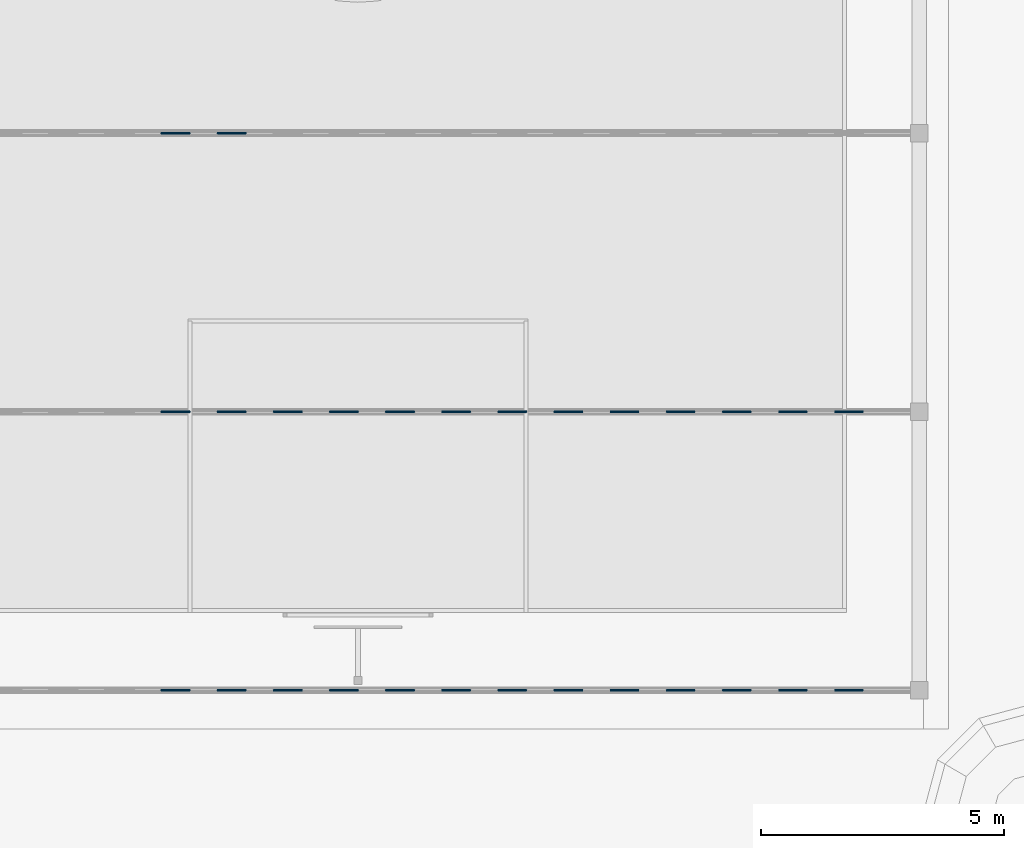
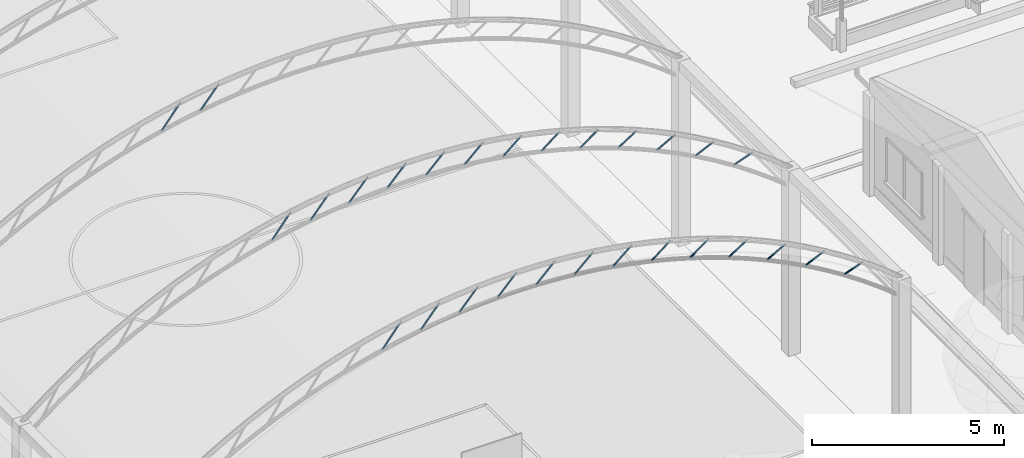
# One storey, part 35 of 177: 28 beams.
"""IFC4 building model written with IfcOpenShell, lengths in metres."""

from ifc_helpers import new_model, si_unit, origin, origin_with_axes, place, context, subcontext, project, spatial, triangles, element, save


model = new_model("IFC4")

# Units and contexts
model_context = context("Model", 3, precision=1e-05, world=origin_with_axes())
body_context = subcontext(model_context, "Body", "Model", "MODEL_VIEW")
ifc_project = project(units=[si_unit("LENGTHUNIT", "METRE"), si_unit("AREAUNIT", "SQUARE_METRE"), si_unit("VOLUMEUNIT", "CUBIC_METRE"), si_unit("PLANEANGLEUNIT", "RADIAN")], contexts=[model_context])

# Site, building, storey
site_placement = place(None, origin_with_axes())
site = spatial("IfcSite", under=ifc_project, at=site_placement, Name="Predio Los Mangos - Morales, San Martín", CompositionType="ELEMENT")
building_placement = place(site_placement, origin())
building = spatial("IfcBuilding", under=site, at=building_placement, Name="Hogar de Refugio Temporal", CompositionType="ELEMENT")
storey_placement = place(building_placement, origin())
storey = spatial("IfcBuildingStorey", under=building, at=storey_placement, Name="NIVEL 1 (NPT +0.00)", CompositionType="ELEMENT", Elevation=0.0)

# Beams
beam_1_placement = place(storey_placement, origin())
element("IfcBeam", 1, at=beam_1_placement, inside=storey, Name="diag", ObjectType="Viga", PredefinedType="BEAM", context=body_context, shape_type="Tessellation", body=[
    triangles([(10.9977, 92.6217, 9.0975), (10.9906, 92.6125, 9.1032), (10.988, 92.6, 9.1053), (10.9906, 92.5875, 9.1032), (10.9977, 92.5783, 9.0975), (11.0075, 92.575, 9.0897), (11.0173, 92.5783, 9.0819), (11.0244, 92.5875, 9.0762), (11.027, 92.6, 9.0741), (11.0244, 92.6125, 9.0762), (11.0173, 92.6217, 9.0819), (11.0075, 92.625, 9.0897), (11.5752, 92.6217, 9.8208), (11.5681, 92.6125, 9.8265), (11.5655, 92.6, 9.8286), (11.5681, 92.5875, 9.8265), (11.5752, 92.5783, 9.8208), (11.585, 92.575, 9.813), (11.5948, 92.5783, 9.8052), (11.6019, 92.5875, 9.7995), (11.6045, 92.6, 9.7974), (11.6019, 92.6125, 9.7995), (11.5948, 92.6217, 9.8052), (11.585, 92.625, 9.813)], [[1, 13, 24], [1, 24, 12], [2, 14, 13], [2, 13, 1], [3, 15, 14], [3, 14, 2], [4, 16, 15], [4, 15, 3], [5, 17, 16], [5, 16, 4], [6, 18, 17], [6, 17, 5], [7, 19, 18], [7, 18, 6], [8, 20, 19], [8, 19, 7], [9, 21, 20], [9, 20, 8], [10, 22, 21], [10, 21, 9], [11, 23, 22], [11, 22, 10], [12, 24, 23], [12, 23, 11]]),
])
beam_2_placement = place(storey_placement, origin())
element("IfcBeam", 2, at=beam_2_placement, inside=storey, Name="diag", ObjectType="Viga", PredefinedType="BEAM", context=body_context, shape_type="Tessellation", body=[
    triangles([(12.1529, 92.6217, 9.3247), (12.146, 92.6125, 9.3306), (12.1434, 92.6, 9.3328), (12.146, 92.5875, 9.3306), (12.1529, 92.5783, 9.3247), (12.1625, 92.575, 9.3166), (12.1721, 92.5783, 9.3086), (12.179, 92.5875, 9.3027), (12.1816, 92.6, 9.3005), (12.179, 92.6125, 9.3027), (12.1721, 92.6217, 9.3086), (12.1625, 92.625, 9.3166), (12.7304, 92.6217, 10.0091), (12.7235, 92.6125, 10.015), (12.7209, 92.6, 10.0171), (12.7235, 92.5875, 10.015), (12.7304, 92.5783, 10.0091), (12.74, 92.575, 10.001), (12.7496, 92.5783, 9.9929), (12.7565, 92.5875, 9.987), (12.7591, 92.6, 9.9849), (12.7565, 92.6125, 9.987), (12.7496, 92.6217, 9.9929), (12.74, 92.625, 10.001)], [[1, 13, 24], [1, 24, 12], [2, 14, 13], [2, 13, 1], [3, 15, 14], [3, 14, 2], [4, 16, 15], [4, 15, 3], [5, 17, 16], [5, 16, 4], [6, 18, 17], [6, 17, 5], [7, 19, 18], [7, 18, 6], [8, 20, 19], [8, 19, 7], [9, 21, 20], [9, 20, 8], [10, 22, 21], [10, 21, 9], [11, 23, 22], [11, 22, 10], [12, 24, 23], [12, 23, 11]]),
])
beam_3_placement = place(storey_placement, origin())
element("IfcBeam", 3, at=beam_3_placement, inside=storey, Name="diag", ObjectType="Viga", PredefinedType="BEAM", context=body_context, shape_type="Tessellation", body=[
    triangles([(13.3082, 92.6217, 9.4747), (13.3014, 92.6125, 9.4808), (13.2989, 92.6, 9.483), (13.3014, 92.5875, 9.4808), (13.3082, 92.5783, 9.4747), (13.3175, 92.575, 9.4663), (13.3268, 92.5783, 9.458), (13.3336, 92.5875, 9.4519), (13.3361, 92.6, 9.4497), (13.3336, 92.6125, 9.4519), (13.3268, 92.6217, 9.458), (13.3175, 92.625, 9.4663), (13.8857, 92.6217, 10.1212), (13.8789, 92.6125, 10.1273), (13.8764, 92.6, 10.1295), (13.8789, 92.5875, 10.1273), (13.8857, 92.5783, 10.1212), (13.895, 92.575, 10.1129), (13.9043, 92.5783, 10.1045), (13.9111, 92.5875, 10.0984), (13.9136, 92.6, 10.0962), (13.9111, 92.6125, 10.0984), (13.9043, 92.6217, 10.1045), (13.895, 92.625, 10.1129)], [[1, 13, 24], [1, 24, 12], [2, 14, 13], [2, 13, 1], [3, 15, 14], [3, 14, 2], [4, 16, 15], [4, 15, 3], [5, 17, 16], [5, 16, 4], [6, 18, 17], [6, 17, 5], [7, 19, 18], [7, 18, 6], [8, 20, 19], [8, 19, 7], [9, 21, 20], [9, 20, 8], [10, 22, 21], [10, 21, 9], [11, 23, 22], [11, 22, 10], [12, 24, 23], [12, 23, 11]]),
])
beam_4_placement = place(storey_placement, origin())
element("IfcBeam", 4, at=beam_4_placement, inside=storey, Name="diag", ObjectType="Viga", PredefinedType="BEAM", context=body_context, shape_type="Tessellation", body=[
    triangles([(14.4634, 92.6217, 9.5493), (14.4568, 92.6125, 9.5556), (14.4544, 92.6, 9.5579), (14.4568, 92.5875, 9.5556), (14.4634, 92.5783, 9.5493), (14.4725, 92.575, 9.5407), (14.4816, 92.5783, 9.5321), (14.4882, 92.5875, 9.5258), (14.4906, 92.6, 9.5235), (14.4882, 92.6125, 9.5258), (14.4816, 92.6217, 9.5321), (14.4725, 92.625, 9.5407), (15.0409, 92.6217, 10.1586), (15.0343, 92.6125, 10.1649), (15.0319, 92.6, 10.1672), (15.0343, 92.5875, 10.1649), (15.0409, 92.5783, 10.1586), (15.05, 92.575, 10.15), (15.0591, 92.5783, 10.1414), (15.0657, 92.5875, 10.1351), (15.0681, 92.6, 10.1328), (15.0657, 92.6125, 10.1351), (15.0591, 92.6217, 10.1414), (15.05, 92.625, 10.15)], [[1, 13, 24], [1, 24, 12], [2, 14, 13], [2, 13, 1], [3, 15, 14], [3, 14, 2], [4, 16, 15], [4, 15, 3], [5, 17, 16], [5, 16, 4], [6, 18, 17], [6, 17, 5], [7, 19, 18], [7, 18, 6], [8, 20, 19], [8, 19, 7], [9, 21, 20], [9, 20, 8], [10, 22, 21], [10, 21, 9], [11, 23, 22], [11, 22, 10], [12, 24, 23], [12, 23, 11]]),
])
beam_5_placement = place(storey_placement, origin())
element("IfcBeam", 5, at=beam_5_placement, inside=storey, Name="diag", ObjectType="Viga", PredefinedType="BEAM", context=body_context, shape_type="Tessellation", body=[
    triangles([(15.6187, 92.6217, 9.5496), (15.6123, 92.6125, 9.5561), (15.6099, 92.6, 9.5585), (15.6123, 92.5875, 9.5561), (15.6187, 92.5783, 9.5496), (15.6275, 92.575, 9.5407), (15.6363, 92.5783, 9.5318), (15.6427, 92.5875, 9.5253), (15.6451, 92.6, 9.523), (15.6427, 92.6125, 9.5253), (15.6363, 92.6217, 9.5318), (15.6275, 92.625, 9.5407), (16.1962, 92.6217, 10.1217), (16.1898, 92.6125, 10.1282), (16.1874, 92.6, 10.1306), (16.1898, 92.5875, 10.1282), (16.1962, 92.5783, 10.1217), (16.205, 92.575, 10.1129), (16.2138, 92.5783, 10.104), (16.2202, 92.5875, 10.0975), (16.2226, 92.6, 10.0951), (16.2202, 92.6125, 10.0975), (16.2138, 92.6217, 10.104), (16.205, 92.625, 10.1129)], [[1, 13, 24], [1, 24, 12], [2, 14, 13], [2, 13, 1], [3, 15, 14], [3, 14, 2], [4, 16, 15], [4, 15, 3], [5, 17, 16], [5, 16, 4], [6, 18, 17], [6, 17, 5], [7, 19, 18], [7, 18, 6], [8, 20, 19], [8, 19, 7], [9, 21, 20], [9, 20, 8], [10, 22, 21], [10, 21, 9], [11, 23, 22], [11, 22, 10], [12, 24, 23], [12, 23, 11]]),
])
beam_6_placement = place(storey_placement, origin())
element("IfcBeam", 6, at=beam_6_placement, inside=storey, Name="diag", ObjectType="Viga", PredefinedType="BEAM", context=body_context, shape_type="Tessellation", body=[
    triangles([(16.774, 92.6217, 9.4755), (16.7678, 92.6125, 9.4822), (16.7655, 92.6, 9.4847), (16.7678, 92.5875, 9.4822), (16.774, 92.5783, 9.4755), (16.7825, 92.575, 9.4663), (16.791, 92.5783, 9.4572), (16.7972, 92.5875, 9.4505), (16.7995, 92.6, 9.448), (16.7972, 92.6125, 9.4505), (16.791, 92.6217, 9.4572), (16.7825, 92.625, 9.4663), (17.3515, 92.6217, 10.0102), (17.3453, 92.6125, 10.0169), (17.343, 92.6, 10.0193), (17.3453, 92.5875, 10.0169), (17.3515, 92.5783, 10.0102), (17.36, 92.575, 10.001), (17.3685, 92.5783, 9.9918), (17.3747, 92.5875, 9.9851), (17.377, 92.6, 9.9827), (17.3747, 92.6125, 9.9851), (17.3685, 92.6217, 9.9918), (17.36, 92.625, 10.001)], [[1, 13, 24], [1, 24, 12], [2, 14, 13], [2, 13, 1], [3, 15, 14], [3, 14, 2], [4, 16, 15], [4, 15, 3], [5, 17, 16], [5, 16, 4], [6, 18, 17], [6, 17, 5], [7, 19, 18], [7, 18, 6], [8, 20, 19], [8, 19, 7], [9, 21, 20], [9, 20, 8], [10, 22, 21], [10, 21, 9], [11, 23, 22], [11, 22, 10], [12, 24, 23], [12, 23, 11]]),
])
beam_7_placement = place(storey_placement, origin())
element("IfcBeam", 7, at=beam_7_placement, inside=storey, Name="diag", ObjectType="Viga", PredefinedType="BEAM", context=body_context, shape_type="Tessellation", body=[
    triangles([(17.9294, 92.6217, 9.3261), (17.9234, 92.6125, 9.3331), (17.9212, 92.6, 9.3356), (17.9234, 92.5875, 9.3331), (17.9294, 92.5783, 9.3261), (17.9375, 92.575, 9.3166), (17.9456, 92.5783, 9.3072), (17.9516, 92.5875, 9.3002), (17.9538, 92.6, 9.2977), (17.9516, 92.6125, 9.3002), (17.9456, 92.6217, 9.3072), (17.9375, 92.625, 9.3166), (18.5069, 92.6217, 9.8225), (18.5009, 92.6125, 9.8294), (18.4987, 92.6, 9.8319), (18.5009, 92.5875, 9.8294), (18.5069, 92.5783, 9.8225), (18.515, 92.575, 9.813), (18.5231, 92.5783, 9.8035), (18.5291, 92.5875, 9.7966), (18.5313, 92.6, 9.794), (18.5291, 92.6125, 9.7966), (18.5231, 92.6217, 9.8035), (18.515, 92.625, 9.813)], [[1, 13, 24], [1, 24, 12], [2, 14, 13], [2, 13, 1], [3, 15, 14], [3, 14, 2], [4, 16, 15], [4, 15, 3], [5, 17, 16], [5, 16, 4], [6, 18, 17], [6, 17, 5], [7, 19, 18], [7, 18, 6], [8, 20, 19], [8, 19, 7], [9, 21, 20], [9, 20, 8], [10, 22, 21], [10, 21, 9], [11, 23, 22], [11, 22, 10], [12, 24, 23], [12, 23, 11]]),
])
beam_8_placement = place(storey_placement, origin())
element("IfcBeam", 8, at=beam_8_placement, inside=storey, Name="diag", ObjectType="Viga", PredefinedType="BEAM", context=body_context, shape_type="Tessellation", body=[
    triangles([(19.0847, 92.6217, 9.0995), (19.0791, 92.6125, 9.1067), (19.077, 92.6, 9.1093), (19.0791, 92.5875, 9.1067), (19.0847, 92.5783, 9.0995), (19.0925, 92.575, 9.0897), (19.1003, 92.5783, 9.0799), (19.1059, 92.5875, 9.0727), (19.108, 92.6, 9.0701), (19.1059, 92.6125, 9.0727), (19.1003, 92.6217, 9.0799), (19.0925, 92.625, 9.0897), (19.6622, 92.6217, 9.5562), (19.6566, 92.6125, 9.5633), (19.6545, 92.6, 9.566), (19.6566, 92.5875, 9.5633), (19.6622, 92.5783, 9.5562), (19.67, 92.575, 9.5463), (19.6778, 92.5783, 9.5365), (19.6834, 92.5875, 9.5294), (19.6855, 92.6, 9.5267), (19.6834, 92.6125, 9.5294), (19.6778, 92.6217, 9.5365), (19.67, 92.625, 9.5463)], [[1, 13, 24], [1, 24, 12], [2, 14, 13], [2, 13, 1], [3, 15, 14], [3, 14, 2], [4, 16, 15], [4, 15, 3], [5, 17, 16], [5, 16, 4], [6, 18, 17], [6, 17, 5], [7, 19, 18], [7, 18, 6], [8, 20, 19], [8, 19, 7], [9, 21, 20], [9, 20, 8], [10, 22, 21], [10, 21, 9], [11, 23, 22], [11, 22, 10], [12, 24, 23], [12, 23, 11]]),
])
beam_9_placement = place(storey_placement, origin())
element("IfcBeam", 9, at=beam_9_placement, inside=storey, Name="diag", ObjectType="Viga", PredefinedType="BEAM", context=body_context, shape_type="Tessellation", body=[
    triangles([(20.2402, 92.6217, 8.7926), (20.2349, 92.6125, 8.8), (20.2329, 92.6, 8.8027), (20.2349, 92.5875, 8.8), (20.2402, 92.5783, 8.7926), (20.2475, 92.575, 8.7824), (20.2548, 92.5783, 8.7723), (20.2601, 92.5875, 8.7649), (20.2621, 92.6, 8.7621), (20.2601, 92.6125, 8.7649), (20.2548, 92.6217, 8.7723), (20.2475, 92.625, 8.7824), (20.8177, 92.6217, 9.2075), (20.8124, 92.6125, 9.215), (20.8104, 92.6, 9.2177), (20.8124, 92.5875, 9.215), (20.8177, 92.5783, 9.2075), (20.825, 92.575, 9.1974), (20.8323, 92.5783, 9.1872), (20.8376, 92.5875, 9.1798), (20.8396, 92.6, 9.1771), (20.8376, 92.6125, 9.1798), (20.8323, 92.6217, 9.1872), (20.825, 92.625, 9.1974)], [[1, 13, 24], [1, 24, 12], [2, 14, 13], [2, 13, 1], [3, 15, 14], [3, 14, 2], [4, 16, 15], [4, 15, 3], [5, 17, 16], [5, 16, 4], [6, 18, 17], [6, 17, 5], [7, 19, 18], [7, 18, 6], [8, 20, 19], [8, 19, 7], [9, 21, 20], [9, 20, 8], [10, 22, 21], [10, 21, 9], [11, 23, 22], [11, 22, 10], [12, 24, 23], [12, 23, 11]]),
])
beam_10_placement = place(storey_placement, origin())
element("IfcBeam", 10, at=beam_10_placement, inside=storey, Name="diag", ObjectType="Viga", PredefinedType="BEAM", context=body_context, shape_type="Tessellation", body=[
    triangles([(21.3958, 92.6217, 8.401), (21.3908, 92.6125, 8.4087), (21.389, 92.6, 8.4115), (21.3908, 92.5875, 8.4087), (21.3958, 92.5783, 8.401), (21.4025, 92.575, 8.3905), (21.4092, 92.5783, 8.38), (21.4142, 92.5875, 8.3723), (21.416, 92.6, 8.3695), (21.4142, 92.6125, 8.3723), (21.4092, 92.6217, 8.38), (21.4025, 92.625, 8.3905), (21.9733, 92.6217, 8.7715), (21.9683, 92.6125, 8.7792), (21.9665, 92.6, 8.782), (21.9683, 92.5875, 8.7792), (21.9733, 92.5783, 8.7715), (21.98, 92.575, 8.7609), (21.9867, 92.5783, 8.7504), (21.9917, 92.5875, 8.7427), (21.9935, 92.6, 8.7399), (21.9917, 92.6125, 8.7427), (21.9867, 92.6217, 8.7504), (21.98, 92.625, 8.7609)], [[1, 13, 24], [1, 24, 12], [2, 14, 13], [2, 13, 1], [3, 15, 14], [3, 14, 2], [4, 16, 15], [4, 15, 3], [5, 17, 16], [5, 16, 4], [6, 18, 17], [6, 17, 5], [7, 19, 18], [7, 18, 6], [8, 20, 19], [8, 19, 7], [9, 21, 20], [9, 20, 8], [10, 22, 21], [10, 21, 9], [11, 23, 22], [11, 22, 10], [12, 24, 23], [12, 23, 11]]),
])
beam_11_placement = place(storey_placement, origin())
element("IfcBeam", 11, at=beam_11_placement, inside=storey, Name="diag", ObjectType="Viga", PredefinedType="BEAM", context=body_context, shape_type="Tessellation", body=[
    triangles([(22.5514, 92.6217, 7.9187), (22.547, 92.6125, 7.9267), (22.5453, 92.6, 7.9296), (22.547, 92.5875, 7.9267), (22.5514, 92.5783, 7.9187), (22.5575, 92.575, 7.9077), (22.5636, 92.5783, 7.8968), (22.568, 92.5875, 7.8888), (22.5697, 92.6, 7.8859), (22.568, 92.6125, 7.8888), (22.5636, 92.6217, 7.8968), (22.5575, 92.625, 7.9077), (23.1289, 92.6217, 8.2407), (23.1245, 92.6125, 8.2487), (23.1228, 92.6, 8.2517), (23.1245, 92.5875, 8.2487), (23.1289, 92.5783, 8.2407), (23.135, 92.575, 8.2298), (23.1411, 92.5783, 8.2189), (23.1455, 92.5875, 8.2109), (23.1472, 92.6, 8.208), (23.1455, 92.6125, 8.2109), (23.1411, 92.6217, 8.2189), (23.135, 92.625, 8.2298)], [[1, 13, 24], [1, 24, 12], [2, 14, 13], [2, 13, 1], [3, 15, 14], [3, 14, 2], [4, 16, 15], [4, 15, 3], [5, 17, 16], [5, 16, 4], [6, 18, 17], [6, 17, 5], [7, 19, 18], [7, 18, 6], [8, 20, 19], [8, 19, 7], [9, 21, 20], [9, 20, 8], [10, 22, 21], [10, 21, 9], [11, 23, 22], [11, 22, 10], [12, 24, 23], [12, 23, 11]]),
])
beam_12_placement = place(storey_placement, origin())
element("IfcBeam", 12, at=beam_12_placement, inside=storey, Name="diag", ObjectType="Viga", PredefinedType="BEAM", context=body_context, shape_type="Tessellation", body=[
    triangles([(23.7072, 92.6217, 7.3372), (23.7034, 92.6125, 7.3455), (23.702, 92.6, 7.3485), (23.7034, 92.5875, 7.3455), (23.7072, 92.5783, 7.3372), (23.7125, 92.575, 7.3259), (23.7178, 92.5783, 7.3145), (23.7216, 92.5875, 7.3062), (23.723, 92.6, 7.3032), (23.7216, 92.6125, 7.3062), (23.7178, 92.6217, 7.3145), (23.7125, 92.625, 7.3259), (24.2847, 92.6217, 7.6056), (24.2809, 92.6125, 7.6139), (24.2795, 92.6, 7.617), (24.2809, 92.5875, 7.6139), (24.2847, 92.5783, 7.6056), (24.29, 92.575, 7.5943), (24.2953, 92.5783, 7.583), (24.2991, 92.5875, 7.5747), (24.3005, 92.6, 7.5716), (24.2991, 92.6125, 7.5747), (24.2953, 92.6217, 7.583), (24.29, 92.625, 7.5943)], [[1, 13, 24], [1, 24, 12], [2, 14, 13], [2, 13, 1], [3, 15, 14], [3, 14, 2], [4, 16, 15], [4, 15, 3], [5, 17, 16], [5, 16, 4], [6, 18, 17], [6, 17, 5], [7, 19, 18], [7, 18, 6], [8, 20, 19], [8, 19, 7], [9, 21, 20], [9, 20, 8], [10, 22, 21], [10, 21, 9], [11, 23, 22], [11, 22, 10], [12, 24, 23], [12, 23, 11]]),
])
beam_13_placement = place(storey_placement, origin())
element("IfcBeam", 13, at=beam_13_placement, inside=storey, Name="diag", ObjectType="Viga", PredefinedType="BEAM", context=body_context, shape_type="Tessellation", body=[
    triangles([(24.8633, 92.6217, 6.6451), (24.8602, 92.6125, 6.6537), (24.859, 92.6, 6.6569), (24.8602, 92.5875, 6.6537), (24.8633, 92.5783, 6.6451), (24.8675, 92.575, 6.6333), (24.8717, 92.5783, 6.6216), (24.8748, 92.5875, 6.613), (24.876, 92.6, 6.6098), (24.8748, 92.6125, 6.613), (24.8717, 92.6217, 6.6216), (24.8675, 92.625, 6.6333), (25.4408, 92.6217, 6.8526), (25.4377, 92.6125, 6.8612), (25.4365, 92.6, 6.8643), (25.4377, 92.5875, 6.8612), (25.4408, 92.5783, 6.8526), (25.445, 92.575, 6.8408), (25.4492, 92.5783, 6.829), (25.4523, 92.5875, 6.8204), (25.4535, 92.6, 6.8173), (25.4523, 92.6125, 6.8204), (25.4492, 92.6217, 6.829), (25.445, 92.625, 6.8408)], [[1, 13, 24], [1, 24, 12], [2, 14, 13], [2, 13, 1], [3, 15, 14], [3, 14, 2], [4, 16, 15], [4, 15, 3], [5, 17, 16], [5, 16, 4], [6, 18, 17], [6, 17, 5], [7, 19, 18], [7, 18, 6], [8, 20, 19], [8, 19, 7], [9, 21, 20], [9, 20, 8], [10, 22, 21], [10, 21, 9], [11, 23, 22], [11, 22, 10], [12, 24, 23], [12, 23, 11]]),
])
beam_14_placement = place(storey_placement, origin())
element("IfcBeam", 14, at=beam_14_placement, inside=storey, Name="diag", ObjectType="Viga", PredefinedType="BEAM", context=body_context, shape_type="Tessellation", body=[
    triangles([(10.9977, 98.355, 9.0975), (10.9906, 98.3458, 9.1032), (10.988, 98.3333, 9.1053), (10.9906, 98.3208, 9.1032), (10.9977, 98.3117, 9.0975), (11.0075, 98.3083, 9.0897), (11.0173, 98.3117, 9.0819), (11.0244, 98.3208, 9.0762), (11.027, 98.3333, 9.0741), (11.0244, 98.3458, 9.0762), (11.0173, 98.355, 9.0819), (11.0075, 98.3583, 9.0897), (11.5752, 98.355, 9.8208), (11.5681, 98.3458, 9.8265), (11.5655, 98.3333, 9.8286), (11.5681, 98.3208, 9.8265), (11.5752, 98.3117, 9.8208), (11.585, 98.3083, 9.813), (11.5948, 98.3117, 9.8052), (11.6019, 98.3208, 9.7995), (11.6045, 98.3333, 9.7974), (11.6019, 98.3458, 9.7995), (11.5948, 98.355, 9.8052), (11.585, 98.3583, 9.813)], [[1, 13, 24], [1, 24, 12], [2, 14, 13], [2, 13, 1], [3, 15, 14], [3, 14, 2], [4, 16, 15], [4, 15, 3], [5, 17, 16], [5, 16, 4], [6, 18, 17], [6, 17, 5], [7, 19, 18], [7, 18, 6], [8, 20, 19], [8, 19, 7], [9, 21, 20], [9, 20, 8], [10, 22, 21], [10, 21, 9], [11, 23, 22], [11, 22, 10], [12, 24, 23], [12, 23, 11]]),
])
beam_15_placement = place(storey_placement, origin())
element("IfcBeam", 15, at=beam_15_placement, inside=storey, Name="diag", ObjectType="Viga", PredefinedType="BEAM", context=body_context, shape_type="Tessellation", body=[
    triangles([(12.1529, 98.355, 9.3247), (12.146, 98.3458, 9.3306), (12.1434, 98.3333, 9.3328), (12.146, 98.3208, 9.3306), (12.1529, 98.3117, 9.3247), (12.1625, 98.3083, 9.3166), (12.1721, 98.3117, 9.3086), (12.179, 98.3208, 9.3027), (12.1816, 98.3333, 9.3005), (12.179, 98.3458, 9.3027), (12.1721, 98.355, 9.3086), (12.1625, 98.3583, 9.3166), (12.7304, 98.355, 10.0091), (12.7235, 98.3458, 10.015), (12.7209, 98.3333, 10.0171), (12.7235, 98.3208, 10.015), (12.7304, 98.3117, 10.0091), (12.74, 98.3083, 10.001), (12.7496, 98.3117, 9.9929), (12.7565, 98.3208, 9.987), (12.7591, 98.3333, 9.9849), (12.7565, 98.3458, 9.987), (12.7496, 98.355, 9.9929), (12.74, 98.3583, 10.001)], [[1, 13, 24], [1, 24, 12], [2, 14, 13], [2, 13, 1], [3, 15, 14], [3, 14, 2], [4, 16, 15], [4, 15, 3], [5, 17, 16], [5, 16, 4], [6, 18, 17], [6, 17, 5], [7, 19, 18], [7, 18, 6], [8, 20, 19], [8, 19, 7], [9, 21, 20], [9, 20, 8], [10, 22, 21], [10, 21, 9], [11, 23, 22], [11, 22, 10], [12, 24, 23], [12, 23, 11]]),
])
beam_16_placement = place(storey_placement, origin())
element("IfcBeam", 16, at=beam_16_placement, inside=storey, Name="diag", ObjectType="Viga", PredefinedType="BEAM", context=body_context, shape_type="Tessellation", body=[
    triangles([(13.3082, 98.355, 9.4747), (13.3014, 98.3458, 9.4808), (13.2989, 98.3333, 9.483), (13.3014, 98.3208, 9.4808), (13.3082, 98.3117, 9.4747), (13.3175, 98.3083, 9.4663), (13.3268, 98.3117, 9.458), (13.3336, 98.3208, 9.4519), (13.3361, 98.3333, 9.4497), (13.3336, 98.3458, 9.4519), (13.3268, 98.355, 9.458), (13.3175, 98.3583, 9.4663), (13.8857, 98.355, 10.1212), (13.8789, 98.3458, 10.1273), (13.8764, 98.3333, 10.1295), (13.8789, 98.3208, 10.1273), (13.8857, 98.3117, 10.1212), (13.895, 98.3083, 10.1129), (13.9043, 98.3117, 10.1045), (13.9111, 98.3208, 10.0984), (13.9136, 98.3333, 10.0962), (13.9111, 98.3458, 10.0984), (13.9043, 98.355, 10.1045), (13.895, 98.3583, 10.1129)], [[1, 13, 24], [1, 24, 12], [2, 14, 13], [2, 13, 1], [3, 15, 14], [3, 14, 2], [4, 16, 15], [4, 15, 3], [5, 17, 16], [5, 16, 4], [6, 18, 17], [6, 17, 5], [7, 19, 18], [7, 18, 6], [8, 20, 19], [8, 19, 7], [9, 21, 20], [9, 20, 8], [10, 22, 21], [10, 21, 9], [11, 23, 22], [11, 22, 10], [12, 24, 23], [12, 23, 11]]),
])
beam_17_placement = place(storey_placement, origin())
element("IfcBeam", 17, at=beam_17_placement, inside=storey, Name="diag", ObjectType="Viga", PredefinedType="BEAM", context=body_context, shape_type="Tessellation", body=[
    triangles([(14.4634, 98.355, 9.5493), (14.4568, 98.3458, 9.5556), (14.4544, 98.3333, 9.5579), (14.4568, 98.3208, 9.5556), (14.4634, 98.3117, 9.5493), (14.4725, 98.3083, 9.5407), (14.4816, 98.3117, 9.5321), (14.4882, 98.3208, 9.5258), (14.4906, 98.3333, 9.5235), (14.4882, 98.3458, 9.5258), (14.4816, 98.355, 9.5321), (14.4725, 98.3583, 9.5407), (15.0409, 98.355, 10.1586), (15.0343, 98.3458, 10.1649), (15.0319, 98.3333, 10.1672), (15.0343, 98.3208, 10.1649), (15.0409, 98.3117, 10.1586), (15.05, 98.3083, 10.15), (15.0591, 98.3117, 10.1414), (15.0657, 98.3208, 10.1351), (15.0681, 98.3333, 10.1328), (15.0657, 98.3458, 10.1351), (15.0591, 98.355, 10.1414), (15.05, 98.3583, 10.15)], [[1, 13, 24], [1, 24, 12], [2, 14, 13], [2, 13, 1], [3, 15, 14], [3, 14, 2], [4, 16, 15], [4, 15, 3], [5, 17, 16], [5, 16, 4], [6, 18, 17], [6, 17, 5], [7, 19, 18], [7, 18, 6], [8, 20, 19], [8, 19, 7], [9, 21, 20], [9, 20, 8], [10, 22, 21], [10, 21, 9], [11, 23, 22], [11, 22, 10], [12, 24, 23], [12, 23, 11]]),
])
beam_18_placement = place(storey_placement, origin())
element("IfcBeam", 18, at=beam_18_placement, inside=storey, Name="diag", ObjectType="Viga", PredefinedType="BEAM", context=body_context, shape_type="Tessellation", body=[
    triangles([(15.6187, 98.355, 9.5496), (15.6123, 98.3458, 9.5561), (15.6099, 98.3333, 9.5585), (15.6123, 98.3208, 9.5561), (15.6187, 98.3117, 9.5496), (15.6275, 98.3083, 9.5407), (15.6363, 98.3117, 9.5318), (15.6427, 98.3208, 9.5253), (15.6451, 98.3333, 9.523), (15.6427, 98.3458, 9.5253), (15.6363, 98.355, 9.5318), (15.6275, 98.3583, 9.5407), (16.1962, 98.355, 10.1217), (16.1898, 98.3458, 10.1282), (16.1874, 98.3333, 10.1306), (16.1898, 98.3208, 10.1282), (16.1962, 98.3117, 10.1217), (16.205, 98.3083, 10.1129), (16.2138, 98.3117, 10.104), (16.2202, 98.3208, 10.0975), (16.2226, 98.3333, 10.0951), (16.2202, 98.3458, 10.0975), (16.2138, 98.355, 10.104), (16.205, 98.3583, 10.1129)], [[1, 13, 24], [1, 24, 12], [2, 14, 13], [2, 13, 1], [3, 15, 14], [3, 14, 2], [4, 16, 15], [4, 15, 3], [5, 17, 16], [5, 16, 4], [6, 18, 17], [6, 17, 5], [7, 19, 18], [7, 18, 6], [8, 20, 19], [8, 19, 7], [9, 21, 20], [9, 20, 8], [10, 22, 21], [10, 21, 9], [11, 23, 22], [11, 22, 10], [12, 24, 23], [12, 23, 11]]),
])
beam_19_placement = place(storey_placement, origin())
element("IfcBeam", 19, at=beam_19_placement, inside=storey, Name="diag", ObjectType="Viga", PredefinedType="BEAM", context=body_context, shape_type="Tessellation", body=[
    triangles([(16.774, 98.355, 9.4755), (16.7678, 98.3458, 9.4822), (16.7655, 98.3333, 9.4847), (16.7678, 98.3208, 9.4822), (16.774, 98.3117, 9.4755), (16.7825, 98.3083, 9.4663), (16.791, 98.3117, 9.4572), (16.7972, 98.3208, 9.4505), (16.7995, 98.3333, 9.448), (16.7972, 98.3458, 9.4505), (16.791, 98.355, 9.4572), (16.7825, 98.3583, 9.4663), (17.3515, 98.355, 10.0102), (17.3453, 98.3458, 10.0169), (17.343, 98.3333, 10.0193), (17.3453, 98.3208, 10.0169), (17.3515, 98.3117, 10.0102), (17.36, 98.3083, 10.001), (17.3685, 98.3117, 9.9918), (17.3747, 98.3208, 9.9851), (17.377, 98.3333, 9.9827), (17.3747, 98.3458, 9.9851), (17.3685, 98.355, 9.9918), (17.36, 98.3583, 10.001)], [[1, 13, 24], [1, 24, 12], [2, 14, 13], [2, 13, 1], [3, 15, 14], [3, 14, 2], [4, 16, 15], [4, 15, 3], [5, 17, 16], [5, 16, 4], [6, 18, 17], [6, 17, 5], [7, 19, 18], [7, 18, 6], [8, 20, 19], [8, 19, 7], [9, 21, 20], [9, 20, 8], [10, 22, 21], [10, 21, 9], [11, 23, 22], [11, 22, 10], [12, 24, 23], [12, 23, 11]]),
])
beam_20_placement = place(storey_placement, origin())
element("IfcBeam", 20, at=beam_20_placement, inside=storey, Name="diag", ObjectType="Viga", PredefinedType="BEAM", context=body_context, shape_type="Tessellation", body=[
    triangles([(17.9294, 98.355, 9.3261), (17.9234, 98.3458, 9.3331), (17.9212, 98.3333, 9.3356), (17.9234, 98.3208, 9.3331), (17.9294, 98.3117, 9.3261), (17.9375, 98.3083, 9.3166), (17.9456, 98.3117, 9.3072), (17.9516, 98.3208, 9.3002), (17.9538, 98.3333, 9.2977), (17.9516, 98.3458, 9.3002), (17.9456, 98.355, 9.3072), (17.9375, 98.3583, 9.3166), (18.5069, 98.355, 9.8225), (18.5009, 98.3458, 9.8294), (18.4987, 98.3333, 9.8319), (18.5009, 98.3208, 9.8294), (18.5069, 98.3117, 9.8225), (18.515, 98.3083, 9.813), (18.5231, 98.3117, 9.8035), (18.5291, 98.3208, 9.7966), (18.5313, 98.3333, 9.794), (18.5291, 98.3458, 9.7966), (18.5231, 98.355, 9.8035), (18.515, 98.3583, 9.813)], [[1, 13, 24], [1, 24, 12], [2, 14, 13], [2, 13, 1], [3, 15, 14], [3, 14, 2], [4, 16, 15], [4, 15, 3], [5, 17, 16], [5, 16, 4], [6, 18, 17], [6, 17, 5], [7, 19, 18], [7, 18, 6], [8, 20, 19], [8, 19, 7], [9, 21, 20], [9, 20, 8], [10, 22, 21], [10, 21, 9], [11, 23, 22], [11, 22, 10], [12, 24, 23], [12, 23, 11]]),
])
beam_21_placement = place(storey_placement, origin())
element("IfcBeam", 21, at=beam_21_placement, inside=storey, Name="diag", ObjectType="Viga", PredefinedType="BEAM", context=body_context, shape_type="Tessellation", body=[
    triangles([(19.0847, 98.355, 9.0995), (19.0791, 98.3458, 9.1067), (19.077, 98.3333, 9.1093), (19.0791, 98.3208, 9.1067), (19.0847, 98.3117, 9.0995), (19.0925, 98.3083, 9.0897), (19.1003, 98.3117, 9.0799), (19.1059, 98.3208, 9.0727), (19.108, 98.3333, 9.0701), (19.1059, 98.3458, 9.0727), (19.1003, 98.355, 9.0799), (19.0925, 98.3583, 9.0897), (19.6622, 98.355, 9.5562), (19.6566, 98.3458, 9.5633), (19.6545, 98.3333, 9.566), (19.6566, 98.3208, 9.5633), (19.6622, 98.3117, 9.5562), (19.67, 98.3083, 9.5463), (19.6778, 98.3117, 9.5365), (19.6834, 98.3208, 9.5294), (19.6855, 98.3333, 9.5267), (19.6834, 98.3458, 9.5294), (19.6778, 98.355, 9.5365), (19.67, 98.3583, 9.5463)], [[1, 13, 24], [1, 24, 12], [2, 14, 13], [2, 13, 1], [3, 15, 14], [3, 14, 2], [4, 16, 15], [4, 15, 3], [5, 17, 16], [5, 16, 4], [6, 18, 17], [6, 17, 5], [7, 19, 18], [7, 18, 6], [8, 20, 19], [8, 19, 7], [9, 21, 20], [9, 20, 8], [10, 22, 21], [10, 21, 9], [11, 23, 22], [11, 22, 10], [12, 24, 23], [12, 23, 11]]),
])
beam_22_placement = place(storey_placement, origin())
element("IfcBeam", 22, at=beam_22_placement, inside=storey, Name="diag", ObjectType="Viga", PredefinedType="BEAM", context=body_context, shape_type="Tessellation", body=[
    triangles([(20.2402, 98.355, 8.7926), (20.2349, 98.3458, 8.8), (20.2329, 98.3333, 8.8027), (20.2349, 98.3208, 8.8), (20.2402, 98.3117, 8.7926), (20.2475, 98.3083, 8.7824), (20.2548, 98.3117, 8.7723), (20.2601, 98.3208, 8.7649), (20.2621, 98.3333, 8.7621), (20.2601, 98.3458, 8.7649), (20.2548, 98.355, 8.7723), (20.2475, 98.3583, 8.7824), (20.8177, 98.355, 9.2075), (20.8124, 98.3458, 9.215), (20.8104, 98.3333, 9.2177), (20.8124, 98.3208, 9.215), (20.8177, 98.3117, 9.2075), (20.825, 98.3083, 9.1974), (20.8323, 98.3117, 9.1872), (20.8376, 98.3208, 9.1798), (20.8396, 98.3333, 9.1771), (20.8376, 98.3458, 9.1798), (20.8323, 98.355, 9.1872), (20.825, 98.3583, 9.1974)], [[1, 13, 24], [1, 24, 12], [2, 14, 13], [2, 13, 1], [3, 15, 14], [3, 14, 2], [4, 16, 15], [4, 15, 3], [5, 17, 16], [5, 16, 4], [6, 18, 17], [6, 17, 5], [7, 19, 18], [7, 18, 6], [8, 20, 19], [8, 19, 7], [9, 21, 20], [9, 20, 8], [10, 22, 21], [10, 21, 9], [11, 23, 22], [11, 22, 10], [12, 24, 23], [12, 23, 11]]),
])
beam_23_placement = place(storey_placement, origin())
element("IfcBeam", 23, at=beam_23_placement, inside=storey, Name="diag", ObjectType="Viga", PredefinedType="BEAM", context=body_context, shape_type="Tessellation", body=[
    triangles([(21.3958, 98.355, 8.401), (21.3908, 98.3458, 8.4087), (21.389, 98.3333, 8.4115), (21.3908, 98.3208, 8.4087), (21.3958, 98.3117, 8.401), (21.4025, 98.3083, 8.3905), (21.4092, 98.3117, 8.38), (21.4142, 98.3208, 8.3723), (21.416, 98.3333, 8.3695), (21.4142, 98.3458, 8.3723), (21.4092, 98.355, 8.38), (21.4025, 98.3583, 8.3905), (21.9733, 98.355, 8.7715), (21.9683, 98.3458, 8.7792), (21.9665, 98.3333, 8.782), (21.9683, 98.3208, 8.7792), (21.9733, 98.3117, 8.7715), (21.98, 98.3083, 8.7609), (21.9867, 98.3117, 8.7504), (21.9917, 98.3208, 8.7427), (21.9935, 98.3333, 8.7399), (21.9917, 98.3458, 8.7427), (21.9867, 98.355, 8.7504), (21.98, 98.3583, 8.7609)], [[1, 13, 24], [1, 24, 12], [2, 14, 13], [2, 13, 1], [3, 15, 14], [3, 14, 2], [4, 16, 15], [4, 15, 3], [5, 17, 16], [5, 16, 4], [6, 18, 17], [6, 17, 5], [7, 19, 18], [7, 18, 6], [8, 20, 19], [8, 19, 7], [9, 21, 20], [9, 20, 8], [10, 22, 21], [10, 21, 9], [11, 23, 22], [11, 22, 10], [12, 24, 23], [12, 23, 11]]),
])
beam_24_placement = place(storey_placement, origin())
element("IfcBeam", 24, at=beam_24_placement, inside=storey, Name="diag", ObjectType="Viga", PredefinedType="BEAM", context=body_context, shape_type="Tessellation", body=[
    triangles([(22.5514, 98.355, 7.9187), (22.547, 98.3458, 7.9267), (22.5453, 98.3333, 7.9296), (22.547, 98.3208, 7.9267), (22.5514, 98.3117, 7.9187), (22.5575, 98.3083, 7.9077), (22.5636, 98.3117, 7.8968), (22.568, 98.3208, 7.8888), (22.5697, 98.3333, 7.8859), (22.568, 98.3458, 7.8888), (22.5636, 98.355, 7.8968), (22.5575, 98.3583, 7.9077), (23.1289, 98.355, 8.2407), (23.1245, 98.3458, 8.2487), (23.1228, 98.3333, 8.2517), (23.1245, 98.3208, 8.2487), (23.1289, 98.3117, 8.2407), (23.135, 98.3083, 8.2298), (23.1411, 98.3117, 8.2189), (23.1455, 98.3208, 8.2109), (23.1472, 98.3333, 8.208), (23.1455, 98.3458, 8.2109), (23.1411, 98.355, 8.2189), (23.135, 98.3583, 8.2298)], [[1, 13, 24], [1, 24, 12], [2, 14, 13], [2, 13, 1], [3, 15, 14], [3, 14, 2], [4, 16, 15], [4, 15, 3], [5, 17, 16], [5, 16, 4], [6, 18, 17], [6, 17, 5], [7, 19, 18], [7, 18, 6], [8, 20, 19], [8, 19, 7], [9, 21, 20], [9, 20, 8], [10, 22, 21], [10, 21, 9], [11, 23, 22], [11, 22, 10], [12, 24, 23], [12, 23, 11]]),
])
beam_25_placement = place(storey_placement, origin())
element("IfcBeam", 25, at=beam_25_placement, inside=storey, Name="diag", ObjectType="Viga", PredefinedType="BEAM", context=body_context, shape_type="Tessellation", body=[
    triangles([(23.7072, 98.355, 7.3372), (23.7034, 98.3458, 7.3455), (23.702, 98.3333, 7.3485), (23.7034, 98.3208, 7.3455), (23.7072, 98.3117, 7.3372), (23.7125, 98.3083, 7.3259), (23.7178, 98.3117, 7.3145), (23.7216, 98.3208, 7.3062), (23.723, 98.3333, 7.3032), (23.7216, 98.3458, 7.3062), (23.7178, 98.355, 7.3145), (23.7125, 98.3583, 7.3259), (24.2847, 98.355, 7.6056), (24.2809, 98.3458, 7.6139), (24.2795, 98.3333, 7.617), (24.2809, 98.3208, 7.6139), (24.2847, 98.3117, 7.6056), (24.29, 98.3083, 7.5943), (24.2953, 98.3117, 7.583), (24.2991, 98.3208, 7.5747), (24.3005, 98.3333, 7.5716), (24.2991, 98.3458, 7.5747), (24.2953, 98.355, 7.583), (24.29, 98.3583, 7.5943)], [[1, 13, 24], [1, 24, 12], [2, 14, 13], [2, 13, 1], [3, 15, 14], [3, 14, 2], [4, 16, 15], [4, 15, 3], [5, 17, 16], [5, 16, 4], [6, 18, 17], [6, 17, 5], [7, 19, 18], [7, 18, 6], [8, 20, 19], [8, 19, 7], [9, 21, 20], [9, 20, 8], [10, 22, 21], [10, 21, 9], [11, 23, 22], [11, 22, 10], [12, 24, 23], [12, 23, 11]]),
])
beam_26_placement = place(storey_placement, origin())
element("IfcBeam", 26, at=beam_26_placement, inside=storey, Name="diag", ObjectType="Viga", PredefinedType="BEAM", context=body_context, shape_type="Tessellation", body=[
    triangles([(24.8633, 98.355, 6.6451), (24.8602, 98.3458, 6.6537), (24.859, 98.3333, 6.6569), (24.8602, 98.3208, 6.6537), (24.8633, 98.3117, 6.6451), (24.8675, 98.3083, 6.6333), (24.8717, 98.3117, 6.6216), (24.8748, 98.3208, 6.613), (24.876, 98.3333, 6.6098), (24.8748, 98.3458, 6.613), (24.8717, 98.355, 6.6216), (24.8675, 98.3583, 6.6333), (25.4408, 98.355, 6.8526), (25.4377, 98.3458, 6.8612), (25.4365, 98.3333, 6.8643), (25.4377, 98.3208, 6.8612), (25.4408, 98.3117, 6.8526), (25.445, 98.3083, 6.8408), (25.4492, 98.3117, 6.829), (25.4523, 98.3208, 6.8204), (25.4535, 98.3333, 6.8173), (25.4523, 98.3458, 6.8204), (25.4492, 98.355, 6.829), (25.445, 98.3583, 6.8408)], [[1, 13, 24], [1, 24, 12], [2, 14, 13], [2, 13, 1], [3, 15, 14], [3, 14, 2], [4, 16, 15], [4, 15, 3], [5, 17, 16], [5, 16, 4], [6, 18, 17], [6, 17, 5], [7, 19, 18], [7, 18, 6], [8, 20, 19], [8, 19, 7], [9, 21, 20], [9, 20, 8], [10, 22, 21], [10, 21, 9], [11, 23, 22], [11, 22, 10], [12, 24, 23], [12, 23, 11]]),
])
beam_27_placement = place(storey_placement, origin())
element("IfcBeam", 27, at=beam_27_placement, inside=storey, Name="diag", ObjectType="Viga", PredefinedType="BEAM", context=body_context, shape_type="Tessellation", body=[
    triangles([(10.9977, 104.0883, 9.0975), (10.9906, 104.0792, 9.1032), (10.988, 104.0667, 9.1053), (10.9906, 104.0542, 9.1032), (10.9977, 104.045, 9.0975), (11.0075, 104.0417, 9.0897), (11.0173, 104.045, 9.0819), (11.0244, 104.0542, 9.0762), (11.027, 104.0667, 9.0741), (11.0244, 104.0792, 9.0762), (11.0173, 104.0883, 9.0819), (11.0075, 104.0917, 9.0897), (11.5752, 104.0883, 9.8208), (11.5681, 104.0792, 9.8265), (11.5655, 104.0667, 9.8286), (11.5681, 104.0542, 9.8265), (11.5752, 104.045, 9.8208), (11.585, 104.0417, 9.813), (11.5948, 104.045, 9.8052), (11.6019, 104.0542, 9.7995), (11.6045, 104.0667, 9.7974), (11.6019, 104.0792, 9.7995), (11.5948, 104.0883, 9.8052), (11.585, 104.0917, 9.813)], [[1, 13, 24], [1, 24, 12], [2, 14, 13], [2, 13, 1], [3, 15, 14], [3, 14, 2], [4, 16, 15], [4, 15, 3], [5, 17, 16], [5, 16, 4], [6, 18, 17], [6, 17, 5], [7, 19, 18], [7, 18, 6], [8, 20, 19], [8, 19, 7], [9, 21, 20], [9, 20, 8], [10, 22, 21], [10, 21, 9], [11, 23, 22], [11, 22, 10], [12, 24, 23], [12, 23, 11]]),
])
beam_28_placement = place(storey_placement, origin())
element("IfcBeam", 28, at=beam_28_placement, inside=storey, Name="diag", ObjectType="Viga", PredefinedType="BEAM", context=body_context, shape_type="Tessellation", body=[
    triangles([(12.1529, 104.0883, 9.3247), (12.146, 104.0792, 9.3306), (12.1434, 104.0667, 9.3328), (12.146, 104.0542, 9.3306), (12.1529, 104.045, 9.3247), (12.1625, 104.0417, 9.3166), (12.1721, 104.045, 9.3086), (12.179, 104.0542, 9.3027), (12.1816, 104.0667, 9.3005), (12.179, 104.0792, 9.3027), (12.1721, 104.0883, 9.3086), (12.1625, 104.0917, 9.3166), (12.7304, 104.0883, 10.0091), (12.7235, 104.0792, 10.015), (12.7209, 104.0667, 10.0171), (12.7235, 104.0542, 10.015), (12.7304, 104.045, 10.0091), (12.74, 104.0417, 10.001), (12.7496, 104.045, 9.9929), (12.7565, 104.0542, 9.987), (12.7591, 104.0667, 9.9849), (12.7565, 104.0792, 9.987), (12.7496, 104.0883, 9.9929), (12.74, 104.0917, 10.001)], [[1, 13, 24], [1, 24, 12], [2, 14, 13], [2, 13, 1], [3, 15, 14], [3, 14, 2], [4, 16, 15], [4, 15, 3], [5, 17, 16], [5, 16, 4], [6, 18, 17], [6, 17, 5], [7, 19, 18], [7, 18, 6], [8, 20, 19], [8, 19, 7], [9, 21, 20], [9, 20, 8], [10, 22, 21], [10, 21, 9], [11, 23, 22], [11, 22, 10], [12, 24, 23], [12, 23, 11]]),
])

save(model, "model.ifc")
